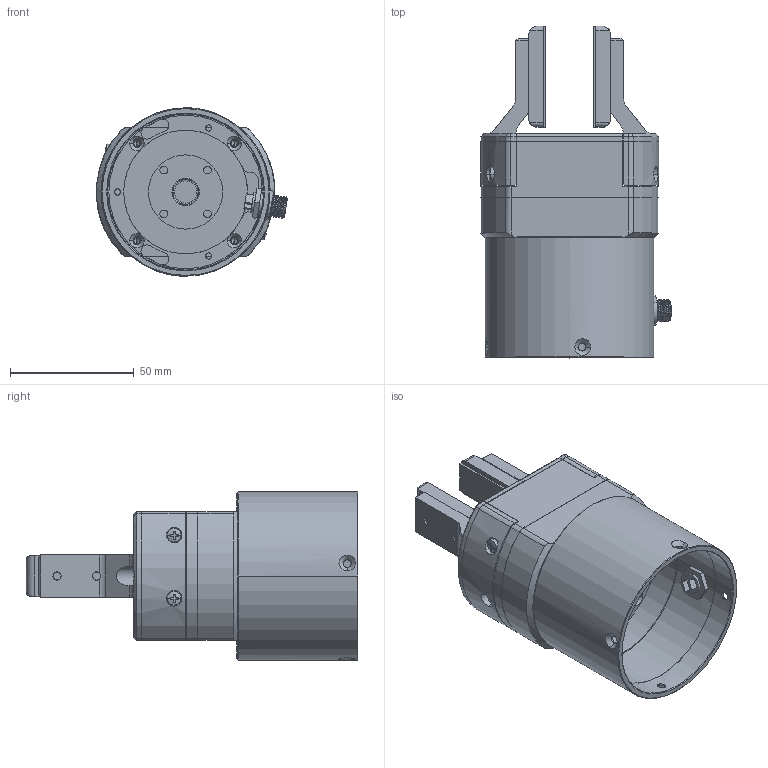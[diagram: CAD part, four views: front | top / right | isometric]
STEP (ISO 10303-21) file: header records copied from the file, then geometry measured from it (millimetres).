
FILE_DESCRIPTION((''),'2;1');
FILE_NAME('__ASM','2022-02-23T',('Rozow'),('ases_149'),'PRO/ENGINEER BY PARAMETRIC TECHNOLOGY CORPORATION, 2017170','PRO/ENGINEER BY PARAMETRIC TECHNOLOGY CORPORATION, 2017170','');
FILE_SCHEMA(('CONFIG_CONTROL_DESIGN'));
Length unit declared in the file: millimetre
Products named in the file (25): _______-M3H6; PRODUCT_44372; PRODUCT_26454; PRODUCT_33294_ASM; PRODUCT_53313; PRODUCT_39490_ASM; PRODUCT_39014_ASM; CROSS_RECESSED_SMALL_PAN_HEAD_S; PRODUCT_40404; PRODUCT_9250; HEXAGON_SOCKET_COUNTERSUNK_HEAD; PRODUCT_6326; __1; ___-M4L10; PRODUCT_27364_ASM; ___-______; __-__1-7298; __-__1-25913; __-__2; __IO___ASM; ____-_______ASM; ___-M4L8; PRODUCT_47258_ASM; PRODUCT_53750; __ASM
Assembly tree (35 placements, depth 4):
  __ASM
    _______-M3H6  x4
    PRODUCT_44372  x2
    PRODUCT_39014_ASM
      PRODUCT_33294_ASM
        PRODUCT_26454
      PRODUCT_39490_ASM
        PRODUCT_53313
    PRODUCT_27364_ASM  x2
      CROSS_RECESSED_SMALL_PAN_HEAD_S
      _______-M3H6
      PRODUCT_40404
      PRODUCT_9250
      HEXAGON_SOCKET_COUNTERSUNK_HEAD
      PRODUCT_6326
      __1
      ___-M4L10
    ____-_______ASM
      ___-______
      __IO___ASM
        __-__1-7298
        __-__1-25913
        __-__2
    PRODUCT_47258_ASM
      ___-M4L8  x2
    PRODUCT_53750
Bounding box: 77.03 x 134 x 68 mm (x, y, z)
Volume: 134846.3 mm3; surface area: 89117.6 mm2
Topology: 39 solids, 39 shells, 1517 faces, 3757 edges, 2239 vertices
Faces by surface type: plane 552, cylinder 535, cone 263, sphere 88, torus 44, bspline 35
Entity records: 31169 total; most frequent: CARTESIAN_POINT 9899, DIRECTION 4683, ORIENTED_EDGE 4148, EDGE_CURVE 2074, AXIS2_PLACEMENT_3D 1830, VERTEX_POINT 1311, VECTOR 1023, LINE 1023
